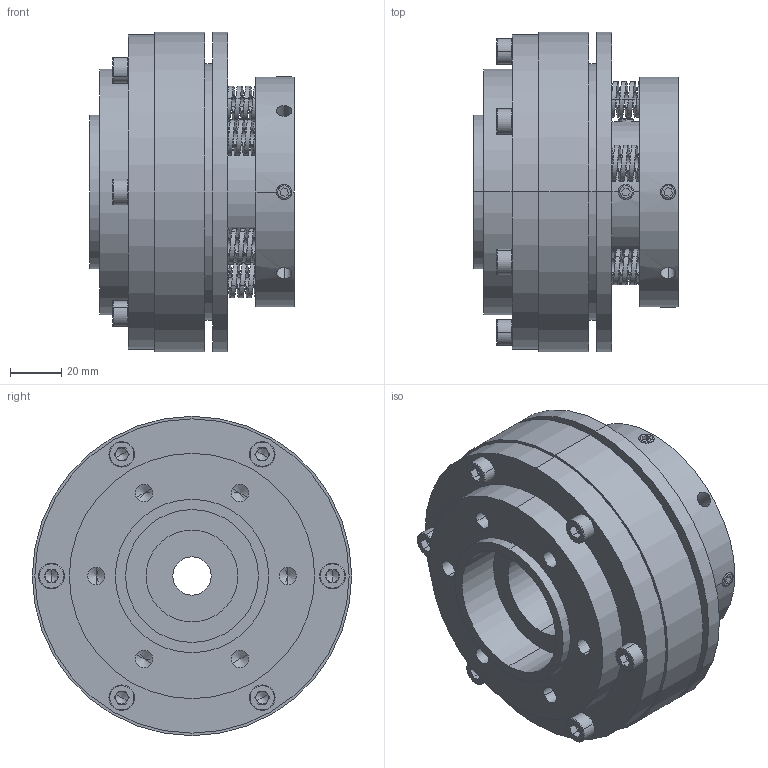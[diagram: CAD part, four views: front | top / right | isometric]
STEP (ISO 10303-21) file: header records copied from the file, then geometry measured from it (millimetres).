
FILE_DESCRIPTION (( 'STEP AP214' ), '1' );
FILE_NAME ('STL150F-L-M.STEP', '2020-03-01T04:20:15', ( '' ), ( '' ), 'SwSTEP 2.0', 'SolidWorks 2015', '' );
FILE_SCHEMA (( 'AUTOMOTIVE_DESIGN' ));
Length unit declared in the file: millimetre
Products named in the file (1): STL150F-L-M
Bounding box: 80.1 x 125 x 125 mm (x, y, z)
Volume: 588815.1 mm3; surface area: 95087.4 mm2
Topology: 1 solids, 9 shells, 544 faces, 1341 edges, 826 vertices
Faces by surface type: cylinder 268, plane 182, cone 48, torus 36, bspline 10
Entity records: 43724 total; most frequent: CARTESIAN_POINT 25167, ORIENTED_EDGE 2618, DIRECTION 2567, EDGE_CURVE 1309, AXIS2_PLACEMENT_3D 987, VERTEX_POINT 826, EDGE_LOOP 611, VECTOR 593
